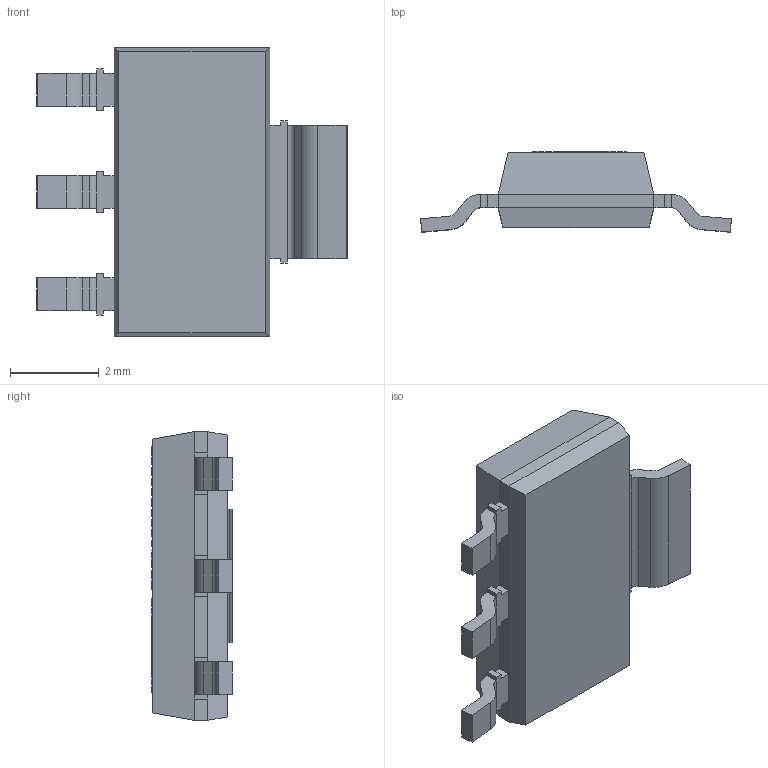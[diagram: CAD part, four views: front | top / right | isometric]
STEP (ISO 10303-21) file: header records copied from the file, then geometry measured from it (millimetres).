
FILE_DESCRIPTION(/* description */ ('STEP AP214'),/* implementation_level */ '2;1');
FILE_NAME(/* name */ 'METUPowerLab_Regulators_LDOs_SOT-223-NCP1117ST33T3G.step',/* time_stamp */ '2026-04-14T23:17:25+03:00',/* author */ (''),/* organization */ (''),/* preprocessor_version */ 'ST-DEVELOPER v20.1',/* originating_system */ 'Autodesk Translation Framework v14.24.0.0',/* authorisation */ '');
FILE_SCHEMA (('AUTOMOTIVE_DESIGN { 1 0 10303 214 3 1 1 }'));
Length unit declared in the file: millimetre
Products named in the file (1): NCV1117ST33T3G
Bounding box: 7 x 1.81 x 6.5 mm (x, y, z)
Volume: 39.3 mm3; surface area: 102.3 mm2
Topology: 5 solids, 5 shells, 600 faces, 1689 edges, 1118 vertices
Faces by surface type: bspline 367, plane 216, cylinder 17
Full cylindrical faces by diameter (mm): 2.117 x1
Entity records: 22523 total; most frequent: CARTESIAN_POINT 9551, ORIENTED_EDGE 3378, EDGE_CURVE 1689, DIRECTION 1457, VERTEX_POINT 1118, LINE 921, VECTOR 921, B_SPLINE_CURVE_WITH_KNOTS 686
